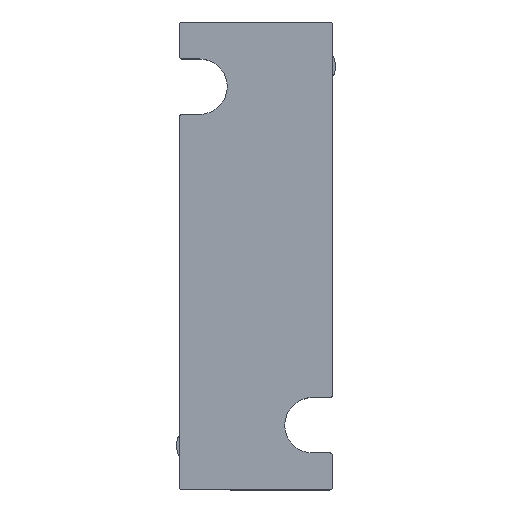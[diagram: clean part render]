
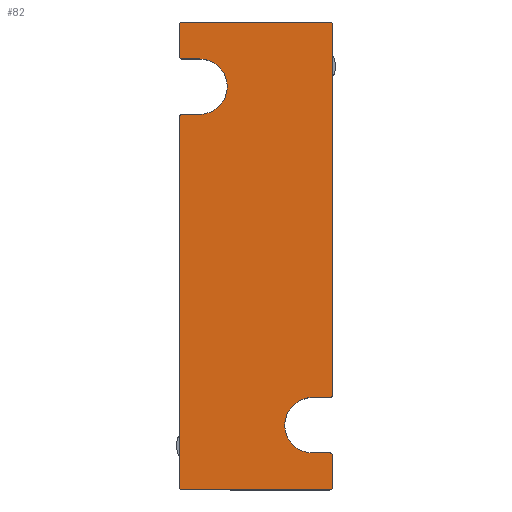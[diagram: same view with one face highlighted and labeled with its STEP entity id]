
A CAD part, top view. The second image highlights one B-rep face of the part: STEP entity #82.
In plain terms, the highlighted planar face has unit normal (0, 0, 1).
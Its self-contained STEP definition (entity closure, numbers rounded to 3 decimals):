
#82=ADVANCED_FACE('',(#568),#567,.T.);
#567=PLANE('',#1392);
#568=FACE_OUTER_BOUND('',#1393,.T.);
#1389=CARTESIAN_POINT('',(-16.5,-4.56,0.));
#1390=DIRECTION('',(0.,0.,1.));
#1391=DIRECTION('',(1.,0.,0.));
#1392=AXIS2_PLACEMENT_3D('',#1389,#1390,#1391);
#1393=EDGE_LOOP('',(#2270,#2271,#2272,#2273,#2274,#2275,#2276,#2277,#2278,#2279,#2280,#2281,#2282,#2283,#2284,#2285,#2286,#2287,#2288,#2289));
#2270=ORIENTED_EDGE('',*,*,#2573,.F.);
#2271=ORIENTED_EDGE('',*,*,#2665,.T.);
#2272=ORIENTED_EDGE('',*,*,#2663,.F.);
#2273=ORIENTED_EDGE('',*,*,#2661,.T.);
#2274=ORIENTED_EDGE('',*,*,#2659,.F.);
#2275=ORIENTED_EDGE('',*,*,#2657,.T.);
#2276=ORIENTED_EDGE('',*,*,#2655,.T.);
#2277=ORIENTED_EDGE('',*,*,#2653,.T.);
#2278=ORIENTED_EDGE('',*,*,#2651,.F.);
#2279=ORIENTED_EDGE('',*,*,#2649,.T.);
#2280=ORIENTED_EDGE('',*,*,#2647,.F.);
#2281=ORIENTED_EDGE('',*,*,#2645,.T.);
#2282=ORIENTED_EDGE('',*,*,#2643,.F.);
#2283=ORIENTED_EDGE('',*,*,#2641,.T.);
#2284=ORIENTED_EDGE('',*,*,#2639,.F.);
#2285=ORIENTED_EDGE('',*,*,#2637,.T.);
#2286=ORIENTED_EDGE('',*,*,#2635,.T.);
#2287=ORIENTED_EDGE('',*,*,#2633,.T.);
#2288=ORIENTED_EDGE('',*,*,#2631,.F.);
#2289=ORIENTED_EDGE('',*,*,#2629,.T.);
#2573=EDGE_CURVE('',#3051,#3058,#3059,.T.);
#2629=EDGE_CURVE('',#3432,#3058,#3433,.T.);
#2631=EDGE_CURVE('',#3432,#3445,#3446,.T.);
#2633=EDGE_CURVE('',#3458,#3445,#3459,.T.);
#2635=EDGE_CURVE('',#3471,#3458,#3472,.T.);
#2637=EDGE_CURVE('',#3484,#3471,#3485,.T.);
#2639=EDGE_CURVE('',#3484,#3497,#3498,.T.);
#2641=EDGE_CURVE('',#3510,#3497,#3511,.T.);
#2643=EDGE_CURVE('',#3510,#3523,#3524,.T.);
#2645=EDGE_CURVE('',#3536,#3523,#3537,.T.);
#2647=EDGE_CURVE('',#3536,#3549,#3550,.T.);
#2649=EDGE_CURVE('',#3562,#3549,#3563,.T.);
#2651=EDGE_CURVE('',#3562,#3575,#3576,.T.);
#2653=EDGE_CURVE('',#3588,#3575,#3589,.T.);
#2655=EDGE_CURVE('',#3601,#3588,#3602,.T.);
#2657=EDGE_CURVE('',#3614,#3601,#3615,.T.);
#2659=EDGE_CURVE('',#3614,#3627,#3628,.T.);
#2661=EDGE_CURVE('',#3640,#3627,#3641,.T.);
#2663=EDGE_CURVE('',#3640,#3653,#3654,.T.);
#2665=EDGE_CURVE('',#3051,#3653,#3666,.T.);
#3051=VERTEX_POINT('',#4535);
#3058=VERTEX_POINT('',#4539);
#3059=CIRCLE('',#4543,0.3);
#3432=VERTEX_POINT('',#4776);
#3433=LINE('',#4777,#4778);
#3445=VERTEX_POINT('',#4783);
#3446=CIRCLE('',#4787,0.3);
#3458=VERTEX_POINT('',#4791);
#3459=LINE('',#4792,#4793);
#3471=VERTEX_POINT('',#4798);
#3472=CIRCLE('',#4802,2.7);
#3484=VERTEX_POINT('',#4806);
#3485=LINE('',#4807,#4808);
#3497=VERTEX_POINT('',#4813);
#3498=CIRCLE('',#4817,0.3);
#3510=VERTEX_POINT('',#4821);
#3511=LINE('',#4822,#4823);
#3523=VERTEX_POINT('',#4828);
#3524=CIRCLE('',#4832,0.3);
#3536=VERTEX_POINT('',#4836);
#3537=LINE('',#4837,#4838);
#3549=VERTEX_POINT('',#4843);
#3550=CIRCLE('',#4847,0.3);
#3562=VERTEX_POINT('',#4851);
#3563=LINE('',#4852,#4853);
#3575=VERTEX_POINT('',#4858);
#3576=CIRCLE('',#4862,0.3);
#3588=VERTEX_POINT('',#4866);
#3589=LINE('',#4867,#4868);
#3601=VERTEX_POINT('',#4873);
#3602=CIRCLE('',#4877,2.7);
#3614=VERTEX_POINT('',#4881);
#3615=LINE('',#4882,#4883);
#3627=VERTEX_POINT('',#4888);
#3628=CIRCLE('',#4892,0.3);
#3640=VERTEX_POINT('',#4896);
#3641=LINE('',#4897,#4898);
#3653=VERTEX_POINT('',#4903);
#3654=CIRCLE('',#4907,0.3);
#3666=LINE('',#4911,#4912);
#4535=CARTESIAN_POINT('',(-0.3,45.6,0.));
#4539=CARTESIAN_POINT('',(0.,45.3,0.));
#4540=CARTESIAN_POINT('',(-0.3,45.3,0.));
#4541=DIRECTION('',(0.,0.,-1.));
#4542=DIRECTION('',(-1.,0.,0.));
#4543=AXIS2_PLACEMENT_3D('',#4540,#4541,#4542);
#4776=CARTESIAN_POINT('',(0.,9.3,0.));
#4777=CARTESIAN_POINT('',(0.,9.3,0.));
#4778=VECTOR('',#4779,36.);
#4779=DIRECTION('',(0.,1.,0.));
#4783=CARTESIAN_POINT('',(-0.3,9.,0.));
#4784=CARTESIAN_POINT('',(-0.3,9.3,0.));
#4785=DIRECTION('',(0.,0.,-1.));
#4786=DIRECTION('',(-1.,0.,0.));
#4787=AXIS2_PLACEMENT_3D('',#4784,#4785,#4786);
#4791=CARTESIAN_POINT('',(-2.,9.,0.));
#4792=CARTESIAN_POINT('',(-2.,9.,0.));
#4793=VECTOR('',#4794,1.7);
#4794=DIRECTION('',(1.,0.,0.));
#4798=CARTESIAN_POINT('',(-2.,3.6,0.));
#4799=CARTESIAN_POINT('',(-2.,6.3,0.));
#4800=DIRECTION('',(0.,0.,-1.));
#4801=DIRECTION('',(0.,1.,0.));
#4802=AXIS2_PLACEMENT_3D('',#4799,#4800,#4801);
#4806=CARTESIAN_POINT('',(-0.3,3.6,0.));
#4807=CARTESIAN_POINT('',(-0.3,3.6,0.));
#4808=VECTOR('',#4809,1.7);
#4809=DIRECTION('',(-1.,0.,0.));
#4813=CARTESIAN_POINT('',(0.,3.3,0.));
#4814=CARTESIAN_POINT('',(-0.3,3.3,0.));
#4815=DIRECTION('',(0.,0.,-1.));
#4816=DIRECTION('',(-1.,0.,0.));
#4817=AXIS2_PLACEMENT_3D('',#4814,#4815,#4816);
#4821=CARTESIAN_POINT('',(0.,0.3,0.));
#4822=CARTESIAN_POINT('',(0.,0.3,0.));
#4823=VECTOR('',#4824,3.);
#4824=DIRECTION('',(0.,1.,0.));
#4828=CARTESIAN_POINT('',(-0.3,0.,0.));
#4829=CARTESIAN_POINT('',(-0.3,0.3,0.));
#4830=DIRECTION('',(0.,0.,-1.));
#4831=DIRECTION('',(-1.,0.,0.));
#4832=AXIS2_PLACEMENT_3D('',#4829,#4830,#4831);
#4836=CARTESIAN_POINT('',(-14.7,0.,0.));
#4837=CARTESIAN_POINT('',(-14.7,0.,0.));
#4838=VECTOR('',#4839,14.4);
#4839=DIRECTION('',(1.,0.,0.));
#4843=CARTESIAN_POINT('',(-15.,0.3,0.));
#4844=CARTESIAN_POINT('',(-14.7,0.3,0.));
#4845=DIRECTION('',(0.,0.,-1.));
#4846=DIRECTION('',(-1.,0.,0.));
#4847=AXIS2_PLACEMENT_3D('',#4844,#4845,#4846);
#4851=CARTESIAN_POINT('',(-15.,36.3,0.));
#4852=CARTESIAN_POINT('',(-15.,36.3,0.));
#4853=VECTOR('',#4854,36.);
#4854=DIRECTION('',(0.,-1.,0.));
#4858=CARTESIAN_POINT('',(-14.7,36.6,0.));
#4859=CARTESIAN_POINT('',(-14.7,36.3,0.));
#4860=DIRECTION('',(0.,0.,-1.));
#4861=DIRECTION('',(-1.,0.,0.));
#4862=AXIS2_PLACEMENT_3D('',#4859,#4860,#4861);
#4866=CARTESIAN_POINT('',(-13.,36.6,0.));
#4867=CARTESIAN_POINT('',(-13.,36.6,0.));
#4868=VECTOR('',#4869,1.7);
#4869=DIRECTION('',(-1.,0.,0.));
#4873=CARTESIAN_POINT('',(-13.,42.,0.));
#4874=CARTESIAN_POINT('',(-13.,39.3,0.));
#4875=DIRECTION('',(0.,0.,-1.));
#4876=DIRECTION('',(-1.,0.,0.));
#4877=AXIS2_PLACEMENT_3D('',#4874,#4875,#4876);
#4881=CARTESIAN_POINT('',(-14.7,42.,0.));
#4882=CARTESIAN_POINT('',(-14.7,42.,0.));
#4883=VECTOR('',#4884,1.7);
#4884=DIRECTION('',(1.,0.,0.));
#4888=CARTESIAN_POINT('',(-15.,42.3,0.));
#4889=CARTESIAN_POINT('',(-14.7,42.3,0.));
#4890=DIRECTION('',(0.,0.,-1.));
#4891=DIRECTION('',(-1.,0.,0.));
#4892=AXIS2_PLACEMENT_3D('',#4889,#4890,#4891);
#4896=CARTESIAN_POINT('',(-15.,45.3,0.));
#4897=CARTESIAN_POINT('',(-15.,45.3,0.));
#4898=VECTOR('',#4899,3.);
#4899=DIRECTION('',(0.,-1.,0.));
#4903=CARTESIAN_POINT('',(-14.7,45.6,0.));
#4904=CARTESIAN_POINT('',(-14.7,45.3,0.));
#4905=DIRECTION('',(0.,0.,-1.));
#4906=DIRECTION('',(-1.,0.,0.));
#4907=AXIS2_PLACEMENT_3D('',#4904,#4905,#4906);
#4911=CARTESIAN_POINT('',(-0.3,45.6,0.));
#4912=VECTOR('',#4913,14.4);
#4913=DIRECTION('',(-1.,0.,0.));
